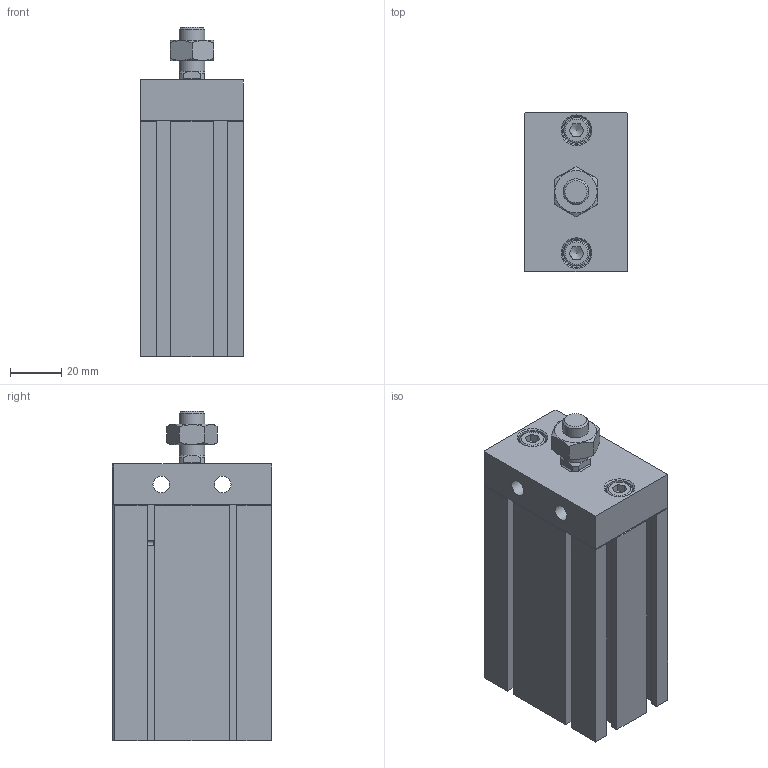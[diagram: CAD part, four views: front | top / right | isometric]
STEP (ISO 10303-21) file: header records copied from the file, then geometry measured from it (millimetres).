
FILE_DESCRIPTION((''),'2;1');
FILE_NAME('I:\3D電子目錄\氣缸\ND\ND\ND32-B\ND32x10-B.stp','2007-07-24T20:08:05',('Administrator'),(''),'Autodesk Inventor 11','Autodesk Inventor 11','');
FILE_SCHEMA(('AUTOMOTIVE_DESIGN { 1 0 10303 214 1 1 1 1 }'));
Length unit declared in the file: millimetre
Products named in the file (4): ND32-B; R 形環 34; ISO 4762 M6 x 16
Assembly tree (4 placements, depth 2):
  ND32-B
    ND32-B
    R 形環 34
    ISO 4762 M6 x 16  x2
Bounding box: 40 x 62.1 x 128.5 mm (x, y, z)
Volume: 238698.6 mm3; surface area: 46896.4 mm2
Topology: 5 solids, 5 shells, 205 faces, 501 edges, 319 vertices
Faces by surface type: plane 141, cylinder 27, cone 20, bspline 14, torus 3
Full cylindrical faces by diameter (mm): 1.9 x2, 2.2 x2, 6 x2, 6.5 x2, 10 x4, 11 x2, 23 x1, 34 x1, 36 x1
Entity records: 5531 total; most frequent: CARTESIAN_POINT 1147, DIRECTION 860, ORIENTED_EDGE 844, EDGE_CURVE 422, VECTOR 302, LINE 302, VERTEX_POINT 292, AXIS2_PLACEMENT_3D 279
